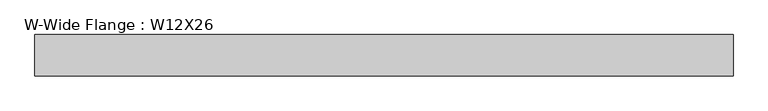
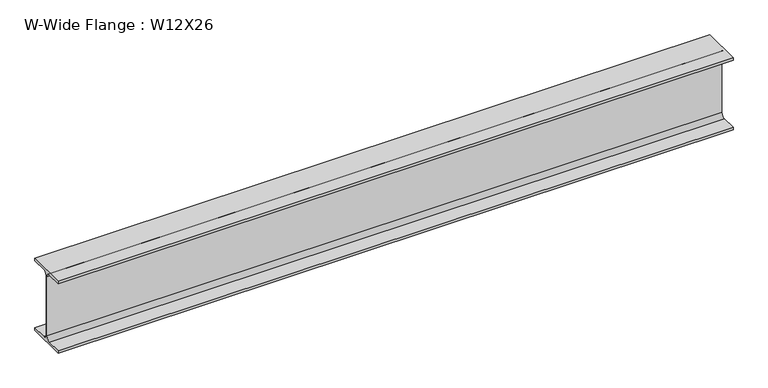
"""IFC4 building model written with IfcOpenShell, lengths in millimetres: beam geometry, W-Wide Flange : W12X26."""

import ifcopenshell
import ifcopenshell.guid

model = None  # the IFC model being written
_history = None  # IfcOwnerHistory: only IFC2X3 demands one
_inside = {}  # id of a spatial element -> (the spatial element, [elements in it])
_under = {}  # id of a project, library or spatial element -> (it, [spatial elements below it])
_declared = {}  # id of a project -> (the project, [libraries it declares])
_typed = {}  # id of a type object -> (the type object, [elements of that type])
_made_of = {}  # id of a material, layer set ... -> (it, [elements and type objects made of it])


def new_model(schema):
    """Start an empty IFC model of exactly this schema.

    Asked for "IFC4X3", IfcOpenShell would pick the latest addendum, in which some entities
    have other attributes; the version numbers below select the first issue.
    IFC2X3 requires an IfcOwnerHistory on every rooted entity: one is made here for all.
    """
    global model, _history
    if schema == "IFC4X3":
        model = ifcopenshell.file(schema_version=(4, 3, 0, 0))
    else:
        model = ifcopenshell.file(schema=schema)
    _inside.clear()
    _under.clear()
    _declared.clear()
    _typed.clear()
    _made_of.clear()
    _history = None
    if model.schema == "IFC2X3":
        org = make("IfcOrganization", Name="unknown")
        user = make(
            "IfcPersonAndOrganization",
            ThePerson=make("IfcPerson", FamilyName="unknown"),
            TheOrganization=org,
        )
        app = make(
            "IfcApplication",
            ApplicationDeveloper=org,
            Version="unknown",
            ApplicationFullName="unknown",
            ApplicationIdentifier="unknown",
        )
        _history = make(
            "IfcOwnerHistory",
            OwningUser=user,
            OwningApplication=app,
            ChangeAction="ADDED",
            CreationDate=0,
        )
    return model


def make(cls, **values):
    """One entity of the class cls with the attributes given. An attribute that is None is left unset."""
    return model.create_entity(
        cls, **{name: value for name, value in values.items() if value is not None}
    )


def rooted(cls, **values):
    """An entity with a GlobalId (a new one), such as an element, a storey or a relation."""
    return make(cls, GlobalId=ifcopenshell.guid.new(), OwnerHistory=_history, **values)


def si_unit(unit_type, name, prefix=None):
    """IfcSIUnit, for example si_unit("LENGTHUNIT", "METRE", prefix="MILLI")."""
    return make("IfcSIUnit", UnitType=unit_type, Prefix=prefix, Name=name)


def assignment(units):
    """IfcUnitAssignment: the units of a project."""
    return None if units is None else make("IfcUnitAssignment", Units=units)


def point(xyz):
    """IfcCartesianPoint."""
    return None if xyz is None else make("IfcCartesianPoint", Coordinates=xyz)


def direction(xyz):
    """IfcDirection."""
    return None if xyz is None else make("IfcDirection", DirectionRatios=xyz)


def frame(location, z_axis=None, x_axis=None):
    """IfcAxis2Placement3D, a coordinate frame: its origin and axes. An axis left out is left unset."""
    return make(
        "IfcAxis2Placement3D",
        Location=point(location),
        Axis=direction(z_axis),
        RefDirection=direction(x_axis),
    )


def frame_2d(location, x_axis=None):
    """IfcAxis2Placement2D, a coordinate frame in the plane: its origin and x axis."""
    return make(
        "IfcAxis2Placement2D", Location=point(location), RefDirection=direction(x_axis)
    )


def origin():
    """The frame at (0, 0, 0) with its axes left unset."""
    return frame((0.0, 0.0, 0.0))


def place(relative_to, where):
    """IfcLocalPlacement: puts the frame where relative to a parent placement (None: the world)."""
    return make(
        "IfcLocalPlacement", PlacementRelTo=relative_to, RelativePlacement=where
    )


def context(
    kind, dimensions, precision=None, world=None, true_north=None, identifier=None
):
    """IfcGeometricRepresentationContext, for example the 3D "Model" context."""
    return make(
        "IfcGeometricRepresentationContext",
        ContextIdentifier=identifier,
        ContextType=kind,
        CoordinateSpaceDimension=dimensions,
        Precision=precision,
        WorldCoordinateSystem=world,
        TrueNorth=true_north,
    )


def project(units=None, contexts=None):
    """IfcProject with its units and contexts."""
    return rooted(
        "IfcProject",
        Name="project",
        RepresentationContexts=contexts,
        UnitsInContext=assignment(units),
    )


def spatial(cls, under=None, at=None, **own):
    """A site, building, storey or space (cls), placed at a placement, below another one or the project."""
    s = rooted(cls, ObjectPlacement=at, **own)
    if under is not None:
        _under.setdefault(under.id(), (under, []))[1].append(s)
    return s


def polyline(points):
    """IfcPolyline through the points."""
    return make("IfcPolyline", Points=[point(p) for p in points])


def circle_curve(where, radius):
    """IfcCircle in the frame where."""
    return make("IfcCircle", Position=where, Radius=radius)


def trimmed(basis, trim1, trim2, sense, master):
    """IfcTrimmedCurve: the piece of a basis curve between two trims."""
    return make(
        "IfcTrimmedCurve",
        BasisCurve=basis,
        Trim1=trim1,
        Trim2=trim2,
        SenseAgreement=sense,
        MasterRepresentation=master,
    )


def segment(curve, same_sense, transition):
    """IfcCompositeCurveSegment."""
    return make(
        "IfcCompositeCurveSegment",
        Transition=transition,
        SameSense=same_sense,
        ParentCurve=curve,
    )


def composite_curve(segments, self_intersect=None):
    """IfcCompositeCurve: segments joined end to end."""
    return make("IfcCompositeCurve", Segments=segments, SelfIntersect=self_intersect)


def outline(outer, holes=None, kind="AREA"):
    """IfcArbitraryClosedProfileDef: a profile drawn as a closed curve; with holes, ...WithVoids."""
    if holes is None:
        return make("IfcArbitraryClosedProfileDef", ProfileType=kind, OuterCurve=outer)
    return make(
        "IfcArbitraryProfileDefWithVoids",
        ProfileType=kind,
        OuterCurve=outer,
        InnerCurves=holes,
    )


def extrude(swept, where, along, depth):
    """IfcExtrudedAreaSolid: the profile swept, set in the frame where, extruded along a direction by depth."""
    return make(
        "IfcExtrudedAreaSolid",
        SweptArea=swept,
        Position=where,
        ExtrudedDirection=direction(along),
        Depth=depth,
    )


def shape(context_of_items, identifier, shape_type, items):
    """IfcShapeRepresentation: the items that make up one representation, for example the "Body"."""
    return make(
        "IfcShapeRepresentation",
        ContextOfItems=context_of_items,
        RepresentationIdentifier=identifier,
        RepresentationType=shape_type,
        Items=items,
    )


def source(mapping_origin, context_of_items, identifier, shape_type, items):
    """IfcRepresentationMap: a shape defined once, which mapped items show again and again."""
    return make(
        "IfcRepresentationMap",
        MappingOrigin=mapping_origin,
        MappedRepresentation=shape(context_of_items, identifier, shape_type, items),
    )


def transform(
    local_origin,
    x_axis=None,
    y_axis=None,
    z_axis=None,
    scale=None,
    scale2=None,
    scale3=None,
    uniform=True,
):
    """IfcCartesianTransformationOperator3D, or its non-uniform kind. x_axis, y_axis, z_axis: its Axis1, 2, 3."""
    if uniform:
        return make(
            "IfcCartesianTransformationOperator3D",
            Axis1=direction(x_axis),
            Axis2=direction(y_axis),
            LocalOrigin=point(local_origin),
            Scale=scale,
            Axis3=direction(z_axis),
        )
    return make(
        "IfcCartesianTransformationOperator3DnonUniform",
        Axis1=direction(x_axis),
        Axis2=direction(y_axis),
        LocalOrigin=point(local_origin),
        Scale=scale,
        Axis3=direction(z_axis),
        Scale2=scale2,
        Scale3=scale3,
    )


def mapped(mapping_source, mapping_target):
    """IfcMappedItem: shows the shape of a source again, moved by a transform."""
    return make(
        "IfcMappedItem", MappingSource=mapping_source, MappingTarget=mapping_target
    )


def made_of(thing, what):
    """Note that an element or type object is made of a material, layer set ...; save() writes the relation."""
    if what is not None:
        _made_of.setdefault(what.id(), (what, []))[1].append(thing)
    return thing


def element(
    cls,
    number,
    at=None,
    inside=None,
    cuts=None,
    type_object=None,
    material=None,
    context=None,
    identifier="Body",
    shape_type=None,
    held_by="IfcProductDefinitionShape",
    body=None,
    shapes=None,
    **own,
):
    """One element of the class cls, such as IfcWall. Its Tag is "e" and its number.

    at: its placement. inside: the storey or other place that contains it. cuts: it is an
    opening in that element (IfcRelVoidsElement). A single representation is given by context,
    identifier, shape_type and body (its items); several are given by shapes. held_by: the class
    of the entity that holds the representations. save() writes the other relations.
    """
    e = rooted(cls, Tag="e%d" % number, ObjectPlacement=at, **own)
    if body is not None:
        shapes = [shape(context, identifier, shape_type, body)]
    if shapes is not None:
        e.Representation = make(held_by, Representations=shapes)
    if inside is not None:
        _inside.setdefault(inside.id(), (inside, []))[1].append(e)
    if cuts is not None:
        rooted(
            "IfcRelVoidsElement", RelatingBuildingElement=cuts, RelatedOpeningElement=e
        )
    if type_object is not None:
        _typed.setdefault(type_object.id(), (type_object, []))[1].append(e)
    return made_of(e, material)


def aggregate(whole, parts):
    """IfcRelAggregates: a whole, such as a stair, and the parts it consists of."""
    return rooted("IfcRelAggregates", RelatingObject=whole, RelatedObjects=parts)


def save(model, path):
    """Write the relations noted so far, then the file.

    IfcRelAggregates (storeys below a building ...), IfcRelContainedInSpatialStructure (elements
    in a storey), IfcRelDefinesByType, IfcRelAssociatesMaterial and IfcRelDeclares: one each for
    every whole, place, type object, material and project.
    """
    for whole, parts in _under.values():
        aggregate(whole, parts)
    for where, things in _inside.values():
        rooted(
            "IfcRelContainedInSpatialStructure",
            RelatedElements=things,
            RelatingStructure=where,
        )
    for kind, things in _typed.values():
        rooted("IfcRelDefinesByType", RelatedObjects=things, RelatingType=kind)
    for what, things in _made_of.values():
        rooted("IfcRelAssociatesMaterial", RelatedObjects=things, RelatingMaterial=what)
    for by, libraries in _declared.values():
        rooted("IfcRelDeclares", RelatingContext=by, RelatedDefinitions=libraries)
    model.write(path)


def w_wide_flange_w12x26_9f1b822f(model_context):
    return source(origin(), model_context, "Body", "SweptSolid", [
        extrude(outline(composite_curve([segment(polyline([(82.4011719, -145.5539063), (82.4011719, -155.178125), (-82.4011719, -155.178125), (-82.4011719, -145.5539063), (-20.2902344, -145.5539063)]), True, "CONTINUOUS"), segment(trimmed(circle_curve(frame_2d((-20.2902344, -128.190625)), 17.3632812), [point((-20.2902344, -145.5539063))], [point((-2.9269531, -128.190625))], True, "CARTESIAN"), True, "CONTINUOUS"), segment(polyline([(-2.9269531, -128.190625), (-2.9269531, 128.190625)]), True, "CONTINUOUS"), segment(trimmed(circle_curve(frame_2d((-20.2902344, 128.190625)), 17.3632812), [point((-2.9269531, 128.190625))], [point((-20.2902344, 145.5539062))], True, "CARTESIAN"), True, "CONTINUOUS"), segment(polyline([(-20.2902344, 145.5539062), (-82.4011719, 145.5539062), (-82.4011719, 155.178125), (82.4011719, 155.178125), (82.4011719, 145.5539062), (20.2902344, 145.5539062)]), True, "CONTINUOUS"), segment(trimmed(circle_curve(frame_2d((20.2902344, 128.190625)), 17.3632812), [point((20.2902344, 145.5539062))], [point((2.9269531, 128.190625))], True, "CARTESIAN"), True, "CONTINUOUS"), segment(polyline([(2.9269531, 128.190625), (2.9269531, -128.190625)]), True, "CONTINUOUS"), segment(trimmed(circle_curve(frame_2d((20.2902344, -128.190625)), 17.3632812), [point((2.9269531, -128.190625))], [point((20.2902344, -145.5539063))], True, "CARTESIAN"), True, "CONTINUOUS"), segment(polyline([(20.2902344, -145.5539063), (82.4011719, -145.5539063)]), True, "CONTINUOUS")], self_intersect=False)), frame((-1384.3, 0.0, 0.0), z_axis=(1.0, 0.0, 0.0), x_axis=(0.0, 1.0, 0.0)), (0.0, 0.0, 1.0), 2768.6),
    ])


if __name__ == "__main__":
    model = new_model("IFC4")
    model_context = context("Model", 3, world=origin())
    ifc_project = project(units=[si_unit("LENGTHUNIT", "METRE", prefix="MILLI")], contexts=[model_context])
    site = spatial("IfcSite", under=ifc_project)
    building = spatial("IfcBuilding", under=site)
    placement = place(None, origin())
    w_wide_flange_w12x26_shape = w_wide_flange_w12x26_9f1b822f(model_context)
    element("IfcBeam", 1, ObjectType="W-Wide Flange : W12X26", at=placement, inside=building, context=model_context, shape_type="MappedRepresentation", body=[
        mapped(w_wide_flange_w12x26_shape, transform((0.0, 0.0, 0.0), x_axis=(1.0, 0.0, 0.0), y_axis=(0.0, 1.0, 0.0), z_axis=(0.0, 0.0, 1.0))),
    ])
    save(model, "model.ifc")
